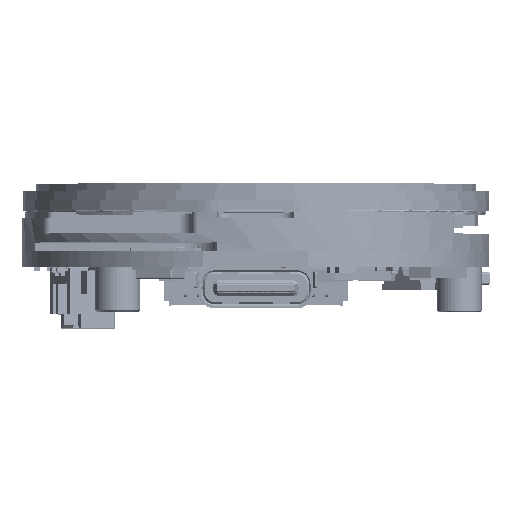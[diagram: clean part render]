
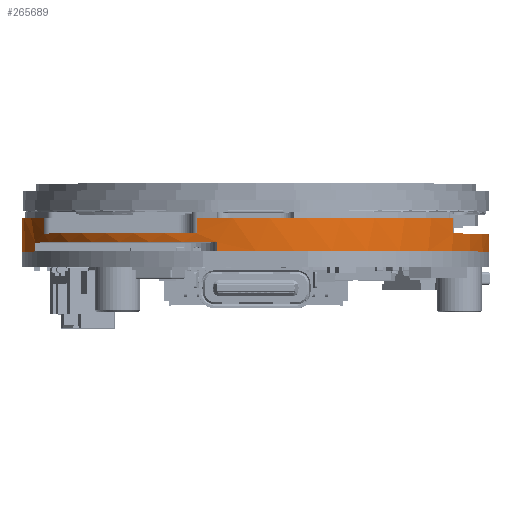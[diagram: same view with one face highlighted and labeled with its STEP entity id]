
A CAD part, top view. The second image highlights one B-rep face of the part: STEP entity #265689.
In plain terms, the highlighted cylindrical face has radius 18.25 mm (diameter 36.5 mm), a partial arc.
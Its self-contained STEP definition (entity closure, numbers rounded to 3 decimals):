
#264290=CARTESIAN_POINT('',(0.,-1.4,0.));
#264291=DIRECTION('',(0.,-1.,0.));
#264292=DIRECTION('',(-0.906,0.,0.423));
#264293=AXIS2_PLACEMENT_3D('',#264290,#264291,#264292);
#264476=DIRECTION('',(0.,1.,0.));
#264477=VECTOR('',#264476,1.2);
#264478=CARTESIAN_POINT('',(-16.541,-2.6,7.711));
#264479=LINE('',#264478,#264477);
#264483=DIRECTION('',(0.,-1.,0.));
#264484=VECTOR('',#264483,1.2);
#264485=CARTESIAN_POINT('',(-4.627,-1.4,17.654));
#264486=LINE('',#264485,#264484);
#264490=CARTESIAN_POINT('',(0.,-1.4,0.));
#264491=DIRECTION('',(0.,1.,0.));
#264492=DIRECTION('',(-0.254,0.,0.967));
#264493=AXIS2_PLACEMENT_3D('',#264490,#264491,#264492);
#264498=DIRECTION('',(0.,1.,0.));
#264499=VECTOR('',#264498,1.2);
#264500=CARTESIAN_POINT('',(15.416,-2.6,9.768));
#264501=LINE('',#264500,#264499);
#264505=DIRECTION('',(0.,-1.,0.));
#264506=VECTOR('',#264505,1.2);
#264507=CARTESIAN_POINT('',(14.323,-1.4,-11.31));
#264508=LINE('',#264507,#264506);
#264512=CARTESIAN_POINT('',(0.,-1.4,0.));
#264513=DIRECTION('',(0.,1.,0.));
#264514=DIRECTION('',(0.785,0.,-0.62));
#264515=AXIS2_PLACEMENT_3D('',#264512,#264513,#264514);
#264520=DIRECTION('',(0.,-1.,0.));
#264521=VECTOR('',#264520,0.6);
#264522=CARTESIAN_POINT('',(6.,-1.4,-17.236));
#264523=LINE('',#264522,#264521);
#264527=CARTESIAN_POINT('',(0.,-2.,0.));
#264528=DIRECTION('',(0.,-1.,0.));
#264529=DIRECTION('',(-0.329,0.,-0.944));
#264530=AXIS2_PLACEMENT_3D('',#264527,#264528,#264529);
#264535=DIRECTION('',(0.,-1.,0.));
#264536=VECTOR('',#264535,0.6);
#264537=CARTESIAN_POINT('',(-6.,-1.4,-17.236));
#264538=LINE('',#264537,#264536);
#264542=CARTESIAN_POINT('',(0.,-1.4,0.));
#264543=DIRECTION('',(0.,1.,0.));
#264544=DIRECTION('',(-0.329,0.,-0.944));
#264545=AXIS2_PLACEMENT_3D('',#264542,#264543,#264544);
#264550=DIRECTION('',(0.,1.,0.));
#264551=VECTOR('',#264550,2.6);
#264552=CARTESIAN_POINT('',(-11.824,-4.,-13.902));
#264553=LINE('',#264552,#264551);
#264557=CARTESIAN_POINT('',(0.,-4.,0.));
#264558=DIRECTION('',(0.,-1.,0.));
#264559=DIRECTION('',(-0.648,0.,-0.762));
#264560=AXIS2_PLACEMENT_3D('',#264557,#264558,#264559);
#264565=DIRECTION('',(0.,1.,0.));
#264566=VECTOR('',#264565,1.6);
#264567=CARTESIAN_POINT('',(9.757,-4.,-15.423));
#264568=LINE('',#264567,#264566);
#264572=DIRECTION('',(0.,-1.,0.));
#264573=VECTOR('',#264572,1.6);
#264574=CARTESIAN_POINT('',(13.366,-2.4,-12.426));
#264575=LINE('',#264574,#264573);
#264579=CARTESIAN_POINT('',(0.,-4.,0.));
#264580=DIRECTION('',(0.,-1.,0.));
#264581=DIRECTION('',(0.732,0.,-0.681));
#264582=AXIS2_PLACEMENT_3D('',#264579,#264580,#264581);
#264587=DIRECTION('',(0.,-1.,0.));
#264588=VECTOR('',#264587,0.7);
#264589=CARTESIAN_POINT('',(-3.,-3.3,18.002));
#264590=LINE('',#264589,#264588);
#264594=CARTESIAN_POINT('',(0.,-3.3,0.));
#264595=DIRECTION('',(0.,-1.,0.));
#264596=DIRECTION('',(-0.164,0.,0.986));
#264597=AXIS2_PLACEMENT_3D('',#264594,#264595,#264596);
#264602=DIRECTION('',(0.,-1.,0.));
#264603=VECTOR('',#264602,0.7);
#264604=CARTESIAN_POINT('',(-17.236,-3.3,6.));
#264605=LINE('',#264604,#264603);
#264609=DIRECTION('',(0.,1.,0.));
#264610=VECTOR('',#264609,2.6);
#264611=CARTESIAN_POINT('',(-17.266,-4.,-5.912));
#264612=LINE('',#264611,#264610);
#264616=CARTESIAN_POINT('',(0.,-2.6,0.));
#264617=DIRECTION('',(0.,-1.,0.));
#264618=DIRECTION('',(0.785,0.,-0.62));
#264619=AXIS2_PLACEMENT_3D('',#264616,#264617,#264618);
#264674=CARTESIAN_POINT('',(0.,-2.6,0.));
#264675=DIRECTION('',(0.,-1.,0.));
#264676=DIRECTION('',(-0.254,0.,0.967));
#264677=AXIS2_PLACEMENT_3D('',#264674,#264675,#264676);
#264889=CARTESIAN_POINT('',(0.,-4.,0.));
#264890=DIRECTION('',(0.,-1.,0.));
#264891=DIRECTION('',(-0.944,0.,0.329));
#264892=AXIS2_PLACEMENT_3D('',#264889,#264890,#264891);
#265174=CARTESIAN_POINT('',(0.,-2.4,0.));
#265175=DIRECTION('',(0.,1.,0.));
#265176=DIRECTION('',(0.732,0.,-0.681));
#265177=AXIS2_PLACEMENT_3D('',#265174,#265175,#265176);
#265321=CARTESIAN_POINT('',(-3.,-3.3,18.002));
#265322=CARTESIAN_POINT('',(-17.236,-3.3,6.));
#265323=VERTEX_POINT('',#265321);
#265324=VERTEX_POINT('',#265322);
#265379=CARTESIAN_POINT('',(-16.541,-1.4,7.711));
#265381=VERTEX_POINT('',#265379);
#265385=CARTESIAN_POINT('',(-16.541,-2.6,7.711));
#265386=VERTEX_POINT('',#265385);
#265391=CARTESIAN_POINT('',(-4.627,-1.4,17.654));
#265392=VERTEX_POINT('',#265391);
#265393=CARTESIAN_POINT('',(-4.627,-2.6,17.654));
#265394=VERTEX_POINT('',#265393);
#265395=CARTESIAN_POINT('',(-11.824,-1.4,-13.902));
#265397=VERTEX_POINT('',#265395);
#265400=CARTESIAN_POINT('',(-17.266,-1.4,-5.912));
#265402=VERTEX_POINT('',#265400);
#265407=CARTESIAN_POINT('',(14.323,-1.4,-11.31));
#265408=VERTEX_POINT('',#265407);
#265409=CARTESIAN_POINT('',(14.323,-2.6,-11.31));
#265410=VERTEX_POINT('',#265409);
#265413=CARTESIAN_POINT('',(15.416,-1.4,9.768));
#265415=VERTEX_POINT('',#265413);
#265419=CARTESIAN_POINT('',(15.416,-2.6,9.768));
#265420=VERTEX_POINT('',#265419);
#265433=CARTESIAN_POINT('',(-6.,-2.,-17.236));
#265434=CARTESIAN_POINT('',(6.,-2.,-17.236));
#265435=VERTEX_POINT('',#265433);
#265436=VERTEX_POINT('',#265434);
#265437=CARTESIAN_POINT('',(6.,-1.4,-17.236));
#265438=VERTEX_POINT('',#265437);
#265439=CARTESIAN_POINT('',(-6.,-1.4,-17.236));
#265440=VERTEX_POINT('',#265439);
#265459=CARTESIAN_POINT('',(9.757,-2.4,-15.423));
#265460=VERTEX_POINT('',#265459);
#265461=CARTESIAN_POINT('',(13.366,-2.4,-12.426));
#265462=VERTEX_POINT('',#265461);
#265463=CARTESIAN_POINT('',(-3.,-4.,18.002));
#265465=VERTEX_POINT('',#265463);
#265467=CARTESIAN_POINT('',(-17.236,-4.,6.));
#265469=VERTEX_POINT('',#265467);
#265485=CARTESIAN_POINT('',(-11.824,-4.,-13.902));
#265486=VERTEX_POINT('',#265485);
#265487=CARTESIAN_POINT('',(-17.266,-4.,-5.912));
#265488=VERTEX_POINT('',#265487);
#265491=CARTESIAN_POINT('',(9.757,-4.,-15.423));
#265492=VERTEX_POINT('',#265491);
#265506=CARTESIAN_POINT('',(13.366,-4.,-12.426));
#265508=VERTEX_POINT('',#265506);
#265640=CARTESIAN_POINT('',(0.,-1.4,0.));
#265641=DIRECTION('',(0.,-1.,0.));
#265642=DIRECTION('',(0.,0.,-1.));
#265643=AXIS2_PLACEMENT_3D('',#265640,#265641,#265642);
#265644=CYLINDRICAL_SURFACE('',#265643,18.25);
#265645=ORIENTED_EDGE('',*,*,#265579,.F.);
#265647=ORIENTED_EDGE('',*,*,#265646,.F.);
#265648=ORIENTED_EDGE('',*,*,#265633,.F.);
#265649=ORIENTED_EDGE('',*,*,#265556,.T.);
#265651=ORIENTED_EDGE('',*,*,#265650,.F.);
#265653=ORIENTED_EDGE('',*,*,#265652,.F.);
#265655=ORIENTED_EDGE('',*,*,#265654,.F.);
#265656=ORIENTED_EDGE('',*,*,#265540,.T.);
#265658=ORIENTED_EDGE('',*,*,#265657,.T.);
#265660=ORIENTED_EDGE('',*,*,#265659,.F.);
#265662=ORIENTED_EDGE('',*,*,#265661,.F.);
#265663=ORIENTED_EDGE('',*,*,#265528,.T.);
#265665=ORIENTED_EDGE('',*,*,#265664,.F.);
#265667=ORIENTED_EDGE('',*,*,#265666,.T.);
#265669=ORIENTED_EDGE('',*,*,#265668,.T.);
#265671=ORIENTED_EDGE('',*,*,#265670,.F.);
#265673=ORIENTED_EDGE('',*,*,#265672,.T.);
#265675=ORIENTED_EDGE('',*,*,#265674,.T.);
#265677=ORIENTED_EDGE('',*,*,#265676,.F.);
#265679=ORIENTED_EDGE('',*,*,#265678,.T.);
#265681=ORIENTED_EDGE('',*,*,#265680,.T.);
#265683=ORIENTED_EDGE('',*,*,#265682,.T.);
#265685=ORIENTED_EDGE('',*,*,#265684,.T.);
#265686=ORIENTED_EDGE('',*,*,#265516,.F.);
#265687=EDGE_LOOP('',(#265645,#265647,#265648,#265649,#265651,#265653,#265655,
#265656,#265658,#265660,#265662,#265663,#265665,#265667,#265669,#265671,#265673,
#265675,#265677,#265679,#265681,#265683,#265685,#265686));
#265688=FACE_OUTER_BOUND('',#265687,.F.);
#265689=ADVANCED_FACE('',(#265688),#265644,.T.);
#264294=CIRCLE('',#264293,18.25);
#264494=CIRCLE('',#264493,18.25);
#264516=CIRCLE('',#264515,18.25);
#264531=CIRCLE('',#264530,18.25);
#264546=CIRCLE('',#264545,18.25);
#264561=CIRCLE('',#264560,18.25);
#264583=CIRCLE('',#264582,18.25);
#264598=CIRCLE('',#264597,18.25);
#264620=CIRCLE('',#264619,18.25);
#264678=CIRCLE('',#264677,18.25);
#264893=CIRCLE('',#264892,18.25);
#265178=CIRCLE('',#265177,18.25);
#265516=EDGE_CURVE('',#265381,#265402,#264294,.T.);
#265528=EDGE_CURVE('',#265440,#265397,#264546,.T.);
#265540=EDGE_CURVE('',#265408,#265438,#264516,.T.);
#265556=EDGE_CURVE('',#265392,#265415,#264494,.T.);
#265579=EDGE_CURVE('',#265386,#265381,#264479,.T.);
#265633=EDGE_CURVE('',#265392,#265394,#264486,.T.);
#265646=EDGE_CURVE('',#265394,#265386,#264678,.T.);
#265650=EDGE_CURVE('',#265420,#265415,#264501,.T.);
#265652=EDGE_CURVE('',#265410,#265420,#264620,.T.);
#265654=EDGE_CURVE('',#265408,#265410,#264508,.T.);
#265657=EDGE_CURVE('',#265438,#265436,#264523,.T.);
#265659=EDGE_CURVE('',#265435,#265436,#264531,.T.);
#265661=EDGE_CURVE('',#265440,#265435,#264538,.T.);
#265664=EDGE_CURVE('',#265486,#265397,#264553,.T.);
#265666=EDGE_CURVE('',#265486,#265492,#264561,.T.);
#265668=EDGE_CURVE('',#265492,#265460,#264568,.T.);
#265670=EDGE_CURVE('',#265462,#265460,#265178,.T.);
#265672=EDGE_CURVE('',#265462,#265508,#264575,.T.);
#265674=EDGE_CURVE('',#265508,#265465,#264583,.T.);
#265676=EDGE_CURVE('',#265323,#265465,#264590,.T.);
#265678=EDGE_CURVE('',#265323,#265324,#264598,.T.);
#265680=EDGE_CURVE('',#265324,#265469,#264605,.T.);
#265682=EDGE_CURVE('',#265469,#265488,#264893,.T.);
#265684=EDGE_CURVE('',#265488,#265402,#264612,.T.);
